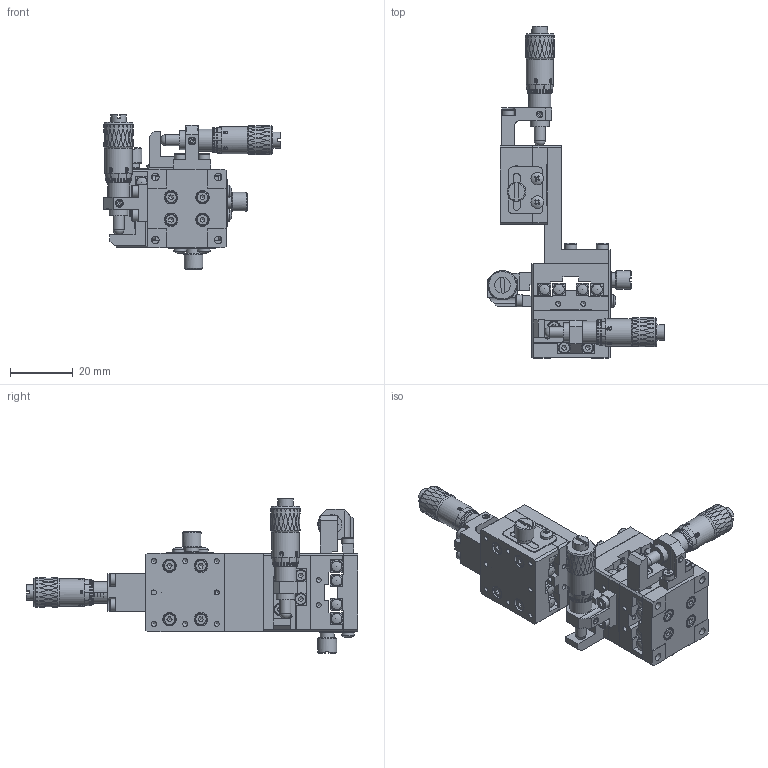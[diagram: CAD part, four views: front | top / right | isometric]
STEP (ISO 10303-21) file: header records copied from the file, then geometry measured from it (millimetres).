
FILE_DESCRIPTION (( 'STEP AP203' ), '1' );
FILE_NAME ('BVD25.STEP', '2024-07-23T08:02:48', ( 'Windows User' ), ( 'P R C' ), 'SwSTEP 2.0', 'SolidWorks 2024', '' );
FILE_SCHEMA (( 'CONFIG_CONTROL_DESIGN' ));
Products named in the file (1): BVD25
Bounding box: 56.3 x 105.7 x 49.1 mm (x, y, z)
Volume: 37283.6 mm3; surface area: 39514 mm2
Topology: 85 solids, 85 shells, 3579 faces, 8469 edges, 5388 vertices
Faces by surface type: plane 1439, bspline 885, cylinder 745, cone 413, torus 91, sphere 6
Full cylindrical faces by diameter (mm): 1.6 x79, 1.65 x24, 2 x49, 2.05 x3, 2.2 x8, 2.4 x40, 2.5 x11, 3 x24, 3.5 x6, 3.8 x40, 3.9 x24, 4 x22, 4.3 x24, 4.5 x3, 5 x6, 6 x9, 7 x6, 8.7 x3
Entity records: 137881 total; most frequent: CARTESIAN_POINT 67416, ORIENTED_EDGE 15160, DIRECTION 11349, EDGE_CURVE 7580, VERTEX_POINT 5181, EDGE_LOOP 4823, AXIS2_PLACEMENT_3D 4375, FACE_OUTER_BOUND 4033
